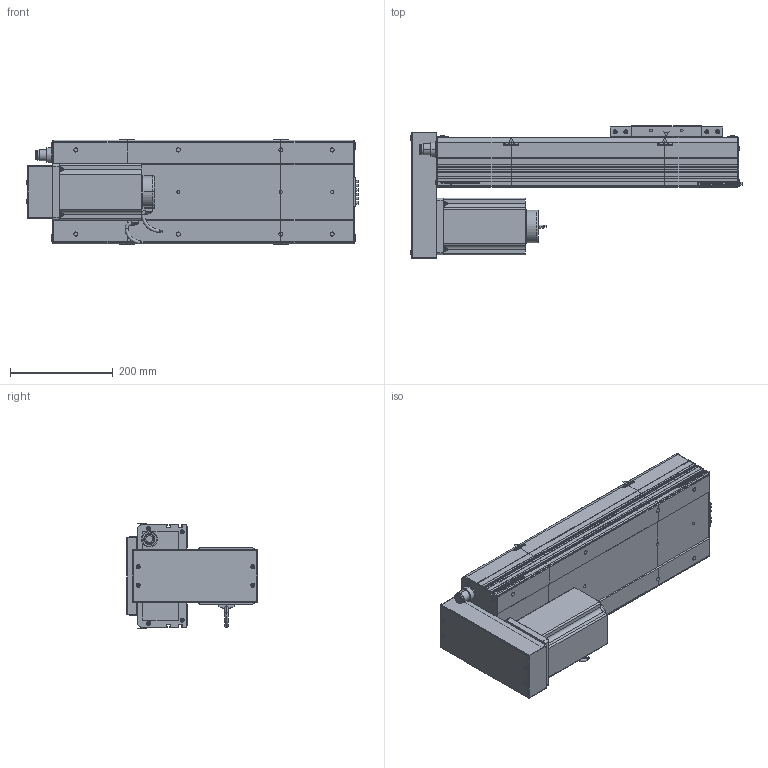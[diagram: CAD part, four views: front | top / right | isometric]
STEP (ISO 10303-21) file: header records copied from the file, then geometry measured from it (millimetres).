
FILE_DESCRIPTION (( 'STEP AP214' ), '1' );
FILE_NAME ('D20 CSH BM S300.STEP', '2010-06-30T07:55:26', ( 'Conseil Régional Haute-Normandie' ), ( 'Conseil Régional Haute-Normandie' ), 'SwSTEP 2.0', 'SolidWorks 2010', '' );
FILE_SCHEMA (( 'AUTOMOTIVE_DESIGN' ));
Length unit declared in the file: millimetre
Products named in the file (31): Conecteur2_Default; Chariot D20_Default; codeur 110BLDC170A-630x; corps 110BLDC170A-630x; avant 110BLDC170A-630x; Moteur motionking 110BLDC170A-640x; Support moteur BM D20_Default; Plaque de Bout Head BM D20_Default; Head BM D20_Default; Glissiere_Default; Conecteur_Default; Plaque De Serrage Head BM D20_Default; vis M5 L15_Default; Couvercle Head BM_Default; Corp Head BM D20_Default; vis M5 L47_Default; Cache Moteur BM D20_Default; vis M5 L30_Default; clavette; ecrou_Default; D20 CSH BM S300; Tail D20+100_Default; Plaque de Bout Tail D20_Default; Couvercle_Default; Corp Tail D20+100_Default; Corp S300_Default; Corp D20 S300_Default; Plaque De Serrage D20_Default; Support Chariot D20_Default; Couvercle S300_Default
Assembly tree (58 placements, depth 4):
  D20 CSH BM S300
    Corp D20 S300_Default
      Couvercle S300_Default
      Corp S300_Default
    Tail D20+100_Default
      Plaque De Serrage D20_Default
      vis M5 L15_Default  x6
      Plaque de Bout Tail D20_Default
      Couvercle_Default
      Corp Tail D20+100_Default
    Chariot D20_Default
      vis M5 L15_Default  x8
      Glissiere_Default
      Chariot D20_Default
      Support Chariot D20_Default
    Head BM D20_Default
      vis M5 L30_Default  x4
      Corp Head BM D20_Default
      vis M5 L15_Default  x6
      Cache Moteur BM D20_Default
      vis M5 L47_Default  x4
      ecrou_Default  x4
      Support moteur BM D20_Default
      Couvercle Head BM_Default
      Plaque de Bout Head BM D20_Default
      Plaque De Serrage Head BM D20_Default
      Moteur motionking 110BLDC170A-640x
        codeur 110BLDC170A-630x
        clavette
        corps 110BLDC170A-630x
        Conecteur2_Default
        avant 110BLDC170A-630x
        Conecteur_Default
Bounding box: 647.7 x 257.5 x 206 mm (x, y, z)
Volume: 6717246.8 mm3; surface area: 1290529.3 mm2
Topology: 95 solids, 95 shells, 3493 faces, 8815 edges, 5745 vertices
Faces by surface type: plane 1968, bspline 806, cylinder 581, torus 79, cone 59
Entity records: 156193 total; most frequent: CARTESIAN_POINT 81763, ORIENTED_EDGE 14778, DIRECTION 10979, EDGE_CURVE 7389, VERTEX_POINT 4893, VECTOR 4865, LINE 4865, EDGE_LOOP 3132
